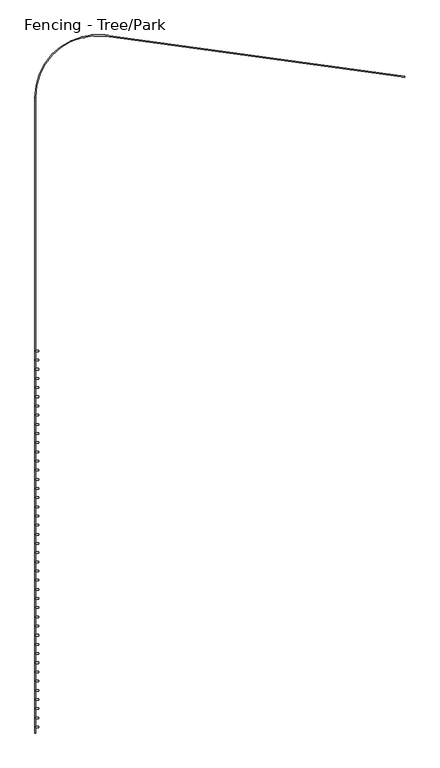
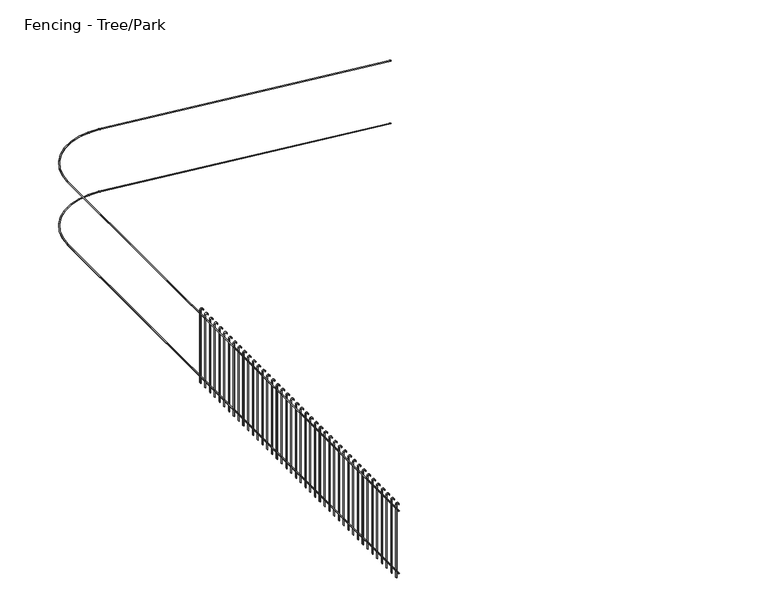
"""IFC4 building model written with IfcOpenShell, lengths in millimetres: railing geometry, Fencing - Tree/Park."""

from ifc_helpers import new_model, si_unit, point, frame, frame_2d, origin, place, context, project, spatial, polyline, circle_curve, ellipse_curve, trimmed, segment, composite_curve, outline, extrude, source, transform, mapped, element, save
from ifc_brep_helpers import plane_surface, cylinder_surface, revolved_surface, advanced_brep


def fencing_tree_park_5cc4b941(model_context):
    return source(origin(), model_context, "Body", "SolidModel", [
        advanced_brep(
        [(-6852.969669, 11627.7450858, 4192.5), (-6850.9463985, 11642.6080053, 4192.5), (-11753.9899093, 12310.0531351, 4192.5), (-11756.0131798, 12295.1902156, 4192.5), (-12895.5232368, 11300.2905414, 4192.5), (-12910.5232368, 11300.2905414, 4192.5), (-12895.5232368, 900.2905414, 4192.5), (-12910.5232368, 900.2905414, 4192.5)],
        [
            (0, 1, circle_curve(frame((-6851.9580338, 11635.1765456, 4192.5), z_axis=(0.9908613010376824, -0.13488469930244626, 0.0), x_axis=(0.13488469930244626, 0.9908613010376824, 0.0)), 7.5)),
            (1, 0, circle_curve(frame((-6851.9580338, 11635.1765456, 4192.5), z_axis=(0.9908613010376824, -0.13488469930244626, 0.0), x_axis=(0.13488469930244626, 0.9908613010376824, 0.0)), 7.5)),
            (1, 2),
            (2, 3, circle_curve(frame((-11755.0015446, 12302.6216753, 4192.5), z_axis=(0.9908613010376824, -0.13488469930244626, 0.0), x_axis=(0.13488469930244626, 0.9908613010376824, 0.0)), 7.5)),
            (3, 0),
            (3, 2, circle_curve(frame((-11755.0015446, 12302.6216753, 4192.5), z_axis=(0.9908613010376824, -0.13488469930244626, 0.0), x_axis=(0.13488469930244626, 0.9908613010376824, 0.0)), 7.5)),
            (4, 3, circle_curve(frame((-11891.4476178, 11300.2905414, 4192.5), z_axis=(0.0, 0.0, -1.0), x_axis=(0.1348846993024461, 0.9908613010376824, 0.0)), 1004.075619)),
            (2, 5, circle_curve(frame((-11891.4476178, 11300.2905414, 4192.5), z_axis=(0.0, 0.0, 1.0), x_axis=(0.1348846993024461, 0.9908613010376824, 0.0)), 1019.075619)),
            (5, 4, circle_curve(frame((-12903.0232368, 11300.2905414, 4192.5), z_axis=(0.0, 1.0, 0.0), x_axis=(-1.0, 0.0, 0.0)), 7.5)),
            (4, 5, circle_curve(frame((-12903.0232368, 11300.2905414, 4192.5), z_axis=(0.0, 1.0, 0.0), x_axis=(-1.0, 0.0, 0.0)), 7.5)),
            (6, 7, circle_curve(frame((-12903.0232368, 900.2905414, 4192.5), z_axis=(0.0, -1.0, 0.0), x_axis=(-1.0, 0.0, 0.0)), 7.5)),
            (7, 6, circle_curve(frame((-12903.0232368, 900.2905414, 4192.5), z_axis=(0.0, -1.0, 0.0), x_axis=(-1.0, 0.0, 0.0)), 7.5)),
            (5, 7),
            (6, 4),
        ],
        [
            plane_surface(frame((-6851.9580338, 11635.1765456, 4200.0), z_axis=(0.9908613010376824, -0.13488469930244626, 0.0), x_axis=(0.13488469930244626, 0.9908613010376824, 0.0))),
            cylinder_surface(frame((-6851.9580338, 11635.1765456, 4192.5), z_axis=(0.9908613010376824, -0.13488469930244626, 0.0), x_axis=(0.13488469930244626, 0.9908613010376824, 0.0)), 7.5),
            revolved_surface(trimmed(ellipse_curve(frame((-11755.0015446, 12302.6216753, 4192.5), z_axis=(0.9908613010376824, -0.1348846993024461, 0.0), x_axis=(0.1348846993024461, 0.9908613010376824, 0.0)), 7.5, 7.5), [point((-11753.9899093, 12310.0531351, 4192.5))], [point((-11756.0131798, 12295.1902156, 4192.5))], True, "CARTESIAN"), (-11891.4476178, 11300.2905414, 4200.0), (0.0, 0.0, 1.0)),
            revolved_surface(trimmed(ellipse_curve(frame((-11755.0015446, 12302.6216753, 4192.5), z_axis=(0.9908613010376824, -0.1348846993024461, 0.0), x_axis=(0.1348846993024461, 0.9908613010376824, 0.0)), 7.5, 7.5), [point((-11756.0131798, 12295.1902156, 4192.5))], [point((-11753.9899093, 12310.0531351, 4192.5))], True, "CARTESIAN"), (-11891.4476178, 11300.2905414, 4200.0), (0.0, 0.0, 1.0)),
            plane_surface(frame((-12903.0232368, 900.2905414, 4200.0), z_axis=(0.0, -1.0, 0.0), x_axis=(0.0, 0.0, -1.0))),
            cylinder_surface(frame((-12903.0232368, 11300.2905414, 4192.5), z_axis=(0.0, 1.0, 0.0), x_axis=(-1.0, 0.0, 0.0)), 7.5),
        ],
        [
            (0, [[1, 2]]),
            (1, [[-2, 3, 4, 5]]),
            (1, [[-1, -5, 6, -3]]),
            (2, [[7, -4, 8, 9]]),
            (3, [[-8, -6, -7, 10]]),
            (4, [[11, 12]]),
            (5, [[-9, 13, -11, 14]]),
            (5, [[-10, -14, -12, -13]]),
        ],
    ),
        advanced_brep(
        [(-6852.969669, 11627.7450858, 2992.5), (-6850.9463985, 11642.6080053, 2992.5), (-11756.0131798, 12295.1902156, 2992.5), (-11753.9899093, 12310.0531351, 2992.5), (-12910.5232368, 11300.2905414, 2992.5), (-12895.5232368, 11300.2905414, 2992.5), (-12895.5232368, 900.2905414, 2992.5), (-12910.5232368, 900.2905414, 2992.5)],
        [
            (0, 1, circle_curve(frame((-6851.9580338, 11635.1765456, 2992.5), z_axis=(0.9908613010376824, -0.13488469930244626, 0.0), x_axis=(0.13488469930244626, 0.9908613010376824, 0.0)), 7.5)),
            (1, 0, circle_curve(frame((-6851.9580338, 11635.1765456, 2992.5), z_axis=(0.9908613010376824, -0.13488469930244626, 0.0), x_axis=(0.13488469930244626, 0.9908613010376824, 0.0)), 7.5)),
            (0, 2),
            (2, 3, circle_curve(frame((-11755.0015446, 12302.6216753, 2992.5), z_axis=(0.9908613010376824, -0.13488469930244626, 0.0), x_axis=(0.13488469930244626, 0.9908613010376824, 0.0)), 7.5)),
            (3, 1),
            (3, 2, circle_curve(frame((-11755.0015446, 12302.6216753, 2992.5), z_axis=(0.9908613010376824, -0.13488469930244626, 0.0), x_axis=(0.13488469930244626, 0.9908613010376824, 0.0)), 7.5)),
            (4, 3, circle_curve(frame((-11891.4476178, 11300.2905414, 2992.5), z_axis=(0.0, 0.0, -1.0), x_axis=(0.1348846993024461, 0.9908613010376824, 0.0)), 1019.075619)),
            (2, 5, circle_curve(frame((-11891.4476178, 11300.2905414, 2992.5), z_axis=(0.0, 0.0, 1.0), x_axis=(0.1348846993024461, 0.9908613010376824, 0.0)), 1004.075619)),
            (5, 4, circle_curve(frame((-12903.0232368, 11300.2905414, 2992.5), z_axis=(0.0, 1.0, 0.0), x_axis=(-1.0, 0.0, 0.0)), 7.5)),
            (4, 5, circle_curve(frame((-12903.0232368, 11300.2905414, 2992.5), z_axis=(0.0, 1.0, 0.0), x_axis=(-1.0, 0.0, 0.0)), 7.5)),
            (6, 7, circle_curve(frame((-12903.0232368, 900.2905414, 2992.5), z_axis=(0.0, -1.0, 0.0), x_axis=(-1.0, 0.0, 0.0)), 7.5)),
            (7, 6, circle_curve(frame((-12903.0232368, 900.2905414, 2992.5), z_axis=(0.0, -1.0, 0.0), x_axis=(-1.0, 0.0, 0.0)), 7.5)),
            (5, 6),
            (7, 4),
        ],
        [
            plane_surface(frame((-6851.9580338, 11635.1765456, 3000.0), z_axis=(0.9908613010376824, -0.13488469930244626, 0.0), x_axis=(0.13488469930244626, 0.9908613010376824, 0.0))),
            cylinder_surface(frame((-6851.9580338, 11635.1765456, 2992.5), z_axis=(0.9908613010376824, -0.13488469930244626, 0.0), x_axis=(0.13488469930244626, 0.9908613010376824, 0.0)), 7.5),
            revolved_surface(trimmed(ellipse_curve(frame((-11755.0015446, 12302.6216753, 2992.5), z_axis=(0.9908613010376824, -0.1348846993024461, 0.0), x_axis=(0.1348846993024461, 0.9908613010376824, 0.0)), 7.5, 7.5), [point((-11756.0131798, 12295.1902156, 2992.5))], [point((-11753.9899093, 12310.0531351, 2992.5))], True, "CARTESIAN"), (-11891.4476178, 11300.2905414, 3000.0), (0.0, 0.0, 1.0)),
            revolved_surface(trimmed(ellipse_curve(frame((-11755.0015446, 12302.6216753, 2992.5), z_axis=(0.9908613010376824, -0.1348846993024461, 0.0), x_axis=(0.1348846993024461, 0.9908613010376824, 0.0)), 7.5, 7.5), [point((-11753.9899093, 12310.0531351, 2992.5))], [point((-11756.0131798, 12295.1902156, 2992.5))], True, "CARTESIAN"), (-11891.4476178, 11300.2905414, 3000.0), (0.0, 0.0, 1.0)),
            plane_surface(frame((-12903.0232368, 900.2905414, 3000.0), z_axis=(0.0, -1.0, 0.0), x_axis=(0.0, 0.0, -1.0))),
            cylinder_surface(frame((-12903.0232368, 11300.2905414, 2992.5), z_axis=(0.0, 1.0, 0.0), x_axis=(-1.0, 0.0, 0.0)), 7.5),
        ],
        [
            (0, [[1, 2]]),
            (1, [[-1, 3, 4, 5]]),
            (1, [[-2, -5, 6, -3]]),
            (2, [[7, -4, 8, 9]]),
            (3, [[-8, -6, -7, 10]]),
            (4, [[11, 12]]),
            (5, [[-9, 13, -12, 14]]),
            (5, [[-10, -14, -11, -13]]),
        ],
    ),
        extrude(outline(composite_curve([segment(polyline([(4250.0, -12895.5232368), (2850.0, -12895.5232368), (2850.0, -12890.5232368), (4250.0, -12890.5232368)]), True, "CONTINUOUS"), segment(trimmed(circle_curve(frame_2d((4250.0, -12870.5232368)), 20.0), [point((4250.0, -12890.5232368))], [point((4250.0, -12850.5232368))], True, "CARTESIAN"), True, "CONTINUOUS"), segment(polyline([(4250.0, -12850.5232368), (4240.0, -12850.5232368), (4240.0, -12845.5232368), (4250.0, -12845.5232368)]), True, "CONTINUOUS"), segment(trimmed(circle_curve(frame_2d((4250.0, -12870.5232368)), 25.0), [point((4250.0, -12845.5232368))], [point((4250.0, -12895.5232368))], False, "CARTESIAN"), True, "CONTINUOUS")], self_intersect=False)), frame((0.0, 987.7905414, 0.0), z_axis=(0.0, 1.0, 0.0), x_axis=(0.0, 0.0, 1.0)), (0.0, 0.0, 1.0), 25.0),
        extrude(outline(composite_curve([segment(polyline([(4250.0, -12895.5232368), (2850.0, -12895.5232368), (2850.0, -12890.5232368), (4250.0, -12890.5232368)]), True, "CONTINUOUS"), segment(trimmed(circle_curve(frame_2d((4250.0, -12870.5232368)), 20.0), [point((4250.0, -12890.5232368))], [point((4250.0, -12850.5232368))], True, "CARTESIAN"), True, "CONTINUOUS"), segment(polyline([(4250.0, -12850.5232368), (4240.0, -12850.5232368), (4240.0, -12845.5232368), (4250.0, -12845.5232368)]), True, "CONTINUOUS"), segment(trimmed(circle_curve(frame_2d((4250.0, -12870.5232368)), 25.0), [point((4250.0, -12845.5232368))], [point((4250.0, -12895.5232368))], False, "CARTESIAN"), True, "CONTINUOUS")], self_intersect=False)), frame((0.0, 1137.7905414, 0.0), z_axis=(0.0, 1.0, 0.0), x_axis=(0.0, 0.0, 1.0)), (0.0, 0.0, 1.0), 25.0),
        extrude(outline(composite_curve([segment(polyline([(4250.0, -12895.5232368), (2850.0, -12895.5232368), (2850.0, -12890.5232368), (4250.0, -12890.5232368)]), True, "CONTINUOUS"), segment(trimmed(circle_curve(frame_2d((4250.0, -12870.5232368)), 20.0), [point((4250.0, -12890.5232368))], [point((4250.0, -12850.5232368))], True, "CARTESIAN"), True, "CONTINUOUS"), segment(polyline([(4250.0, -12850.5232368), (4240.0, -12850.5232368), (4240.0, -12845.5232368), (4250.0, -12845.5232368)]), True, "CONTINUOUS"), segment(trimmed(circle_curve(frame_2d((4250.0, -12870.5232368)), 25.0), [point((4250.0, -12845.5232368))], [point((4250.0, -12895.5232368))], False, "CARTESIAN"), True, "CONTINUOUS")], self_intersect=False)), frame((0.0, 1287.7905414, 0.0), z_axis=(0.0, 1.0, 0.0), x_axis=(0.0, 0.0, 1.0)), (0.0, 0.0, 1.0), 25.0),
        extrude(outline(composite_curve([segment(polyline([(4250.0, -12895.5232368), (2850.0, -12895.5232368), (2850.0, -12890.5232368), (4250.0, -12890.5232368)]), True, "CONTINUOUS"), segment(trimmed(circle_curve(frame_2d((4250.0, -12870.5232368)), 20.0), [point((4250.0, -12890.5232368))], [point((4250.0, -12850.5232368))], True, "CARTESIAN"), True, "CONTINUOUS"), segment(polyline([(4250.0, -12850.5232368), (4240.0, -12850.5232368), (4240.0, -12845.5232368), (4250.0, -12845.5232368)]), True, "CONTINUOUS"), segment(trimmed(circle_curve(frame_2d((4250.0, -12870.5232368)), 25.0), [point((4250.0, -12845.5232368))], [point((4250.0, -12895.5232368))], False, "CARTESIAN"), True, "CONTINUOUS")], self_intersect=False)), frame((0.0, 1437.7905414, 0.0), z_axis=(0.0, 1.0, 0.0), x_axis=(0.0, 0.0, 1.0)), (0.0, 0.0, 1.0), 25.0),
        extrude(outline(composite_curve([segment(polyline([(4250.0, -12895.5232368), (2850.0, -12895.5232368), (2850.0, -12890.5232368), (4250.0, -12890.5232368)]), True, "CONTINUOUS"), segment(trimmed(circle_curve(frame_2d((4250.0, -12870.5232368)), 20.0), [point((4250.0, -12890.5232368))], [point((4250.0, -12850.5232368))], True, "CARTESIAN"), True, "CONTINUOUS"), segment(polyline([(4250.0, -12850.5232368), (4240.0, -12850.5232368), (4240.0, -12845.5232368), (4250.0, -12845.5232368)]), True, "CONTINUOUS"), segment(trimmed(circle_curve(frame_2d((4250.0, -12870.5232368)), 25.0), [point((4250.0, -12845.5232368))], [point((4250.0, -12895.5232368))], False, "CARTESIAN"), True, "CONTINUOUS")], self_intersect=False)), frame((0.0, 1587.7905414, 0.0), z_axis=(0.0, 1.0, 0.0), x_axis=(0.0, 0.0, 1.0)), (0.0, 0.0, 1.0), 25.0),
        extrude(outline(composite_curve([segment(polyline([(4250.0, -12895.5232368), (2850.0, -12895.5232368), (2850.0, -12890.5232368), (4250.0, -12890.5232368)]), True, "CONTINUOUS"), segment(trimmed(circle_curve(frame_2d((4250.0, -12870.5232368)), 20.0), [point((4250.0, -12890.5232368))], [point((4250.0, -12850.5232368))], True, "CARTESIAN"), True, "CONTINUOUS"), segment(polyline([(4250.0, -12850.5232368), (4240.0, -12850.5232368), (4240.0, -12845.5232368), (4250.0, -12845.5232368)]), True, "CONTINUOUS"), segment(trimmed(circle_curve(frame_2d((4250.0, -12870.5232368)), 25.0), [point((4250.0, -12845.5232368))], [point((4250.0, -12895.5232368))], False, "CARTESIAN"), True, "CONTINUOUS")], self_intersect=False)), frame((0.0, 1737.7905414, 0.0), z_axis=(0.0, 1.0, 0.0), x_axis=(0.0, 0.0, 1.0)), (0.0, 0.0, 1.0), 25.0),
        extrude(outline(composite_curve([segment(polyline([(4250.0, -12895.5232368), (2850.0, -12895.5232368), (2850.0, -12890.5232368), (4250.0, -12890.5232368)]), True, "CONTINUOUS"), segment(trimmed(circle_curve(frame_2d((4250.0, -12870.5232368)), 20.0), [point((4250.0, -12890.5232368))], [point((4250.0, -12850.5232368))], True, "CARTESIAN"), True, "CONTINUOUS"), segment(polyline([(4250.0, -12850.5232368), (4240.0, -12850.5232368), (4240.0, -12845.5232368), (4250.0, -12845.5232368)]), True, "CONTINUOUS"), segment(trimmed(circle_curve(frame_2d((4250.0, -12870.5232368)), 25.0), [point((4250.0, -12845.5232368))], [point((4250.0, -12895.5232368))], False, "CARTESIAN"), True, "CONTINUOUS")], self_intersect=False)), frame((0.0, 1887.7905414, 0.0), z_axis=(0.0, 1.0, 0.0), x_axis=(0.0, 0.0, 1.0)), (0.0, 0.0, 1.0), 25.0),
        extrude(outline(composite_curve([segment(polyline([(4250.0, -12895.5232368), (2850.0, -12895.5232368), (2850.0, -12890.5232368), (4250.0, -12890.5232368)]), True, "CONTINUOUS"), segment(trimmed(circle_curve(frame_2d((4250.0, -12870.5232368)), 20.0), [point((4250.0, -12890.5232368))], [point((4250.0, -12850.5232368))], True, "CARTESIAN"), True, "CONTINUOUS"), segment(polyline([(4250.0, -12850.5232368), (4240.0, -12850.5232368), (4240.0, -12845.5232368), (4250.0, -12845.5232368)]), True, "CONTINUOUS"), segment(trimmed(circle_curve(frame_2d((4250.0, -12870.5232368)), 25.0), [point((4250.0, -12845.5232368))], [point((4250.0, -12895.5232368))], False, "CARTESIAN"), True, "CONTINUOUS")], self_intersect=False)), frame((0.0, 2037.7905414, 0.0), z_axis=(0.0, 1.0, 0.0), x_axis=(0.0, 0.0, 1.0)), (0.0, 0.0, 1.0), 25.0),
        extrude(outline(composite_curve([segment(polyline([(4250.0, -12895.5232368), (2850.0, -12895.5232368), (2850.0, -12890.5232368), (4250.0, -12890.5232368)]), True, "CONTINUOUS"), segment(trimmed(circle_curve(frame_2d((4250.0, -12870.5232368)), 20.0), [point((4250.0, -12890.5232368))], [point((4250.0, -12850.5232368))], True, "CARTESIAN"), True, "CONTINUOUS"), segment(polyline([(4250.0, -12850.5232368), (4240.0, -12850.5232368), (4240.0, -12845.5232368), (4250.0, -12845.5232368)]), True, "CONTINUOUS"), segment(trimmed(circle_curve(frame_2d((4250.0, -12870.5232368)), 25.0), [point((4250.0, -12845.5232368))], [point((4250.0, -12895.5232368))], False, "CARTESIAN"), True, "CONTINUOUS")], self_intersect=False)), frame((0.0, 2187.7905414, 0.0), z_axis=(0.0, 1.0, 0.0), x_axis=(0.0, 0.0, 1.0)), (0.0, 0.0, 1.0), 25.0),
        extrude(outline(composite_curve([segment(polyline([(4250.0, -12895.5232368), (2850.0, -12895.5232368), (2850.0, -12890.5232368), (4250.0, -12890.5232368)]), True, "CONTINUOUS"), segment(trimmed(circle_curve(frame_2d((4250.0, -12870.5232368)), 20.0), [point((4250.0, -12890.5232368))], [point((4250.0, -12850.5232368))], True, "CARTESIAN"), True, "CONTINUOUS"), segment(polyline([(4250.0, -12850.5232368), (4240.0, -12850.5232368), (4240.0, -12845.5232368), (4250.0, -12845.5232368)]), True, "CONTINUOUS"), segment(trimmed(circle_curve(frame_2d((4250.0, -12870.5232368)), 25.0), [point((4250.0, -12845.5232368))], [point((4250.0, -12895.5232368))], False, "CARTESIAN"), True, "CONTINUOUS")], self_intersect=False)), frame((0.0, 2337.7905414, 0.0), z_axis=(0.0, 1.0, 0.0), x_axis=(0.0, 0.0, 1.0)), (0.0, 0.0, 1.0), 25.0),
        extrude(outline(composite_curve([segment(polyline([(4250.0, -12895.5232368), (2850.0, -12895.5232368), (2850.0, -12890.5232368), (4250.0, -12890.5232368)]), True, "CONTINUOUS"), segment(trimmed(circle_curve(frame_2d((4250.0, -12870.5232368)), 20.0), [point((4250.0, -12890.5232368))], [point((4250.0, -12850.5232368))], True, "CARTESIAN"), True, "CONTINUOUS"), segment(polyline([(4250.0, -12850.5232368), (4240.0, -12850.5232368), (4240.0, -12845.5232368), (4250.0, -12845.5232368)]), True, "CONTINUOUS"), segment(trimmed(circle_curve(frame_2d((4250.0, -12870.5232368)), 25.0), [point((4250.0, -12845.5232368))], [point((4250.0, -12895.5232368))], False, "CARTESIAN"), True, "CONTINUOUS")], self_intersect=False)), frame((0.0, 2487.7905414, 0.0), z_axis=(0.0, 1.0, 0.0), x_axis=(0.0, 0.0, 1.0)), (0.0, 0.0, 1.0), 25.0),
        extrude(outline(composite_curve([segment(polyline([(4250.0, -12895.5232368), (2850.0, -12895.5232368), (2850.0, -12890.5232368), (4250.0, -12890.5232368)]), True, "CONTINUOUS"), segment(trimmed(circle_curve(frame_2d((4250.0, -12870.5232368)), 20.0), [point((4250.0, -12890.5232368))], [point((4250.0, -12850.5232368))], True, "CARTESIAN"), True, "CONTINUOUS"), segment(polyline([(4250.0, -12850.5232368), (4240.0, -12850.5232368), (4240.0, -12845.5232368), (4250.0, -12845.5232368)]), True, "CONTINUOUS"), segment(trimmed(circle_curve(frame_2d((4250.0, -12870.5232368)), 25.0), [point((4250.0, -12845.5232368))], [point((4250.0, -12895.5232368))], False, "CARTESIAN"), True, "CONTINUOUS")], self_intersect=False)), frame((0.0, 2637.7905414, 0.0), z_axis=(0.0, 1.0, 0.0), x_axis=(0.0, 0.0, 1.0)), (0.0, 0.0, 1.0), 25.0),
        extrude(outline(composite_curve([segment(polyline([(4250.0, -12895.5232368), (2850.0, -12895.5232368), (2850.0, -12890.5232368), (4250.0, -12890.5232368)]), True, "CONTINUOUS"), segment(trimmed(circle_curve(frame_2d((4250.0, -12870.5232368)), 20.0), [point((4250.0, -12890.5232368))], [point((4250.0, -12850.5232368))], True, "CARTESIAN"), True, "CONTINUOUS"), segment(polyline([(4250.0, -12850.5232368), (4240.0, -12850.5232368), (4240.0, -12845.5232368), (4250.0, -12845.5232368)]), True, "CONTINUOUS"), segment(trimmed(circle_curve(frame_2d((4250.0, -12870.5232368)), 25.0), [point((4250.0, -12845.5232368))], [point((4250.0, -12895.5232368))], False, "CARTESIAN"), True, "CONTINUOUS")], self_intersect=False)), frame((0.0, 2787.7905414, 0.0), z_axis=(0.0, 1.0, 0.0), x_axis=(0.0, 0.0, 1.0)), (0.0, 0.0, 1.0), 25.0),
        extrude(outline(composite_curve([segment(polyline([(4250.0, -12895.5232368), (2850.0, -12895.5232368), (2850.0, -12890.5232368), (4250.0, -12890.5232368)]), True, "CONTINUOUS"), segment(trimmed(circle_curve(frame_2d((4250.0, -12870.5232368)), 20.0), [point((4250.0, -12890.5232368))], [point((4250.0, -12850.5232368))], True, "CARTESIAN"), True, "CONTINUOUS"), segment(polyline([(4250.0, -12850.5232368), (4240.0, -12850.5232368), (4240.0, -12845.5232368), (4250.0, -12845.5232368)]), True, "CONTINUOUS"), segment(trimmed(circle_curve(frame_2d((4250.0, -12870.5232368)), 25.0), [point((4250.0, -12845.5232368))], [point((4250.0, -12895.5232368))], False, "CARTESIAN"), True, "CONTINUOUS")], self_intersect=False)), frame((0.0, 2937.7905414, 0.0), z_axis=(0.0, 1.0, 0.0), x_axis=(0.0, 0.0, 1.0)), (0.0, 0.0, 1.0), 25.0),
        extrude(outline(composite_curve([segment(polyline([(4250.0, -12895.5232368), (2850.0, -12895.5232368), (2850.0, -12890.5232368), (4250.0, -12890.5232368)]), True, "CONTINUOUS"), segment(trimmed(circle_curve(frame_2d((4250.0, -12870.5232368)), 20.0), [point((4250.0, -12890.5232368))], [point((4250.0, -12850.5232368))], True, "CARTESIAN"), True, "CONTINUOUS"), segment(polyline([(4250.0, -12850.5232368), (4240.0, -12850.5232368), (4240.0, -12845.5232368), (4250.0, -12845.5232368)]), True, "CONTINUOUS"), segment(trimmed(circle_curve(frame_2d((4250.0, -12870.5232368)), 25.0), [point((4250.0, -12845.5232368))], [point((4250.0, -12895.5232368))], False, "CARTESIAN"), True, "CONTINUOUS")], self_intersect=False)), frame((0.0, 3087.7905414, 0.0), z_axis=(0.0, 1.0, 0.0), x_axis=(0.0, 0.0, 1.0)), (0.0, 0.0, 1.0), 25.0),
        extrude(outline(composite_curve([segment(polyline([(4250.0, -12895.5232368), (2850.0, -12895.5232368), (2850.0, -12890.5232368), (4250.0, -12890.5232368)]), True, "CONTINUOUS"), segment(trimmed(circle_curve(frame_2d((4250.0, -12870.5232368)), 20.0), [point((4250.0, -12890.5232368))], [point((4250.0, -12850.5232368))], True, "CARTESIAN"), True, "CONTINUOUS"), segment(polyline([(4250.0, -12850.5232368), (4240.0, -12850.5232368), (4240.0, -12845.5232368), (4250.0, -12845.5232368)]), True, "CONTINUOUS"), segment(trimmed(circle_curve(frame_2d((4250.0, -12870.5232368)), 25.0), [point((4250.0, -12845.5232368))], [point((4250.0, -12895.5232368))], False, "CARTESIAN"), True, "CONTINUOUS")], self_intersect=False)), frame((0.0, 3237.7905414, 0.0), z_axis=(0.0, 1.0, 0.0), x_axis=(0.0, 0.0, 1.0)), (0.0, 0.0, 1.0), 25.0),
        extrude(outline(composite_curve([segment(polyline([(4250.0, -12895.5232368), (2850.0, -12895.5232368), (2850.0, -12890.5232368), (4250.0, -12890.5232368)]), True, "CONTINUOUS"), segment(trimmed(circle_curve(frame_2d((4250.0, -12870.5232368)), 20.0), [point((4250.0, -12890.5232368))], [point((4250.0, -12850.5232368))], True, "CARTESIAN"), True, "CONTINUOUS"), segment(polyline([(4250.0, -12850.5232368), (4240.0, -12850.5232368), (4240.0, -12845.5232368), (4250.0, -12845.5232368)]), True, "CONTINUOUS"), segment(trimmed(circle_curve(frame_2d((4250.0, -12870.5232368)), 25.0), [point((4250.0, -12845.5232368))], [point((4250.0, -12895.5232368))], False, "CARTESIAN"), True, "CONTINUOUS")], self_intersect=False)), frame((0.0, 3387.7905414, 0.0), z_axis=(0.0, 1.0, 0.0), x_axis=(0.0, 0.0, 1.0)), (0.0, 0.0, 1.0), 25.0),
        extrude(outline(composite_curve([segment(polyline([(4250.0, -12895.5232368), (2850.0, -12895.5232368), (2850.0, -12890.5232368), (4250.0, -12890.5232368)]), True, "CONTINUOUS"), segment(trimmed(circle_curve(frame_2d((4250.0, -12870.5232368)), 20.0), [point((4250.0, -12890.5232368))], [point((4250.0, -12850.5232368))], True, "CARTESIAN"), True, "CONTINUOUS"), segment(polyline([(4250.0, -12850.5232368), (4240.0, -12850.5232368), (4240.0, -12845.5232368), (4250.0, -12845.5232368)]), True, "CONTINUOUS"), segment(trimmed(circle_curve(frame_2d((4250.0, -12870.5232368)), 25.0), [point((4250.0, -12845.5232368))], [point((4250.0, -12895.5232368))], False, "CARTESIAN"), True, "CONTINUOUS")], self_intersect=False)), frame((0.0, 3537.7905414, 0.0), z_axis=(0.0, 1.0, 0.0), x_axis=(0.0, 0.0, 1.0)), (0.0, 0.0, 1.0), 25.0),
        extrude(outline(composite_curve([segment(polyline([(4250.0, -12895.5232368), (2850.0, -12895.5232368), (2850.0, -12890.5232368), (4250.0, -12890.5232368)]), True, "CONTINUOUS"), segment(trimmed(circle_curve(frame_2d((4250.0, -12870.5232368)), 20.0), [point((4250.0, -12890.5232368))], [point((4250.0, -12850.5232368))], True, "CARTESIAN"), True, "CONTINUOUS"), segment(polyline([(4250.0, -12850.5232368), (4240.0, -12850.5232368), (4240.0, -12845.5232368), (4250.0, -12845.5232368)]), True, "CONTINUOUS"), segment(trimmed(circle_curve(frame_2d((4250.0, -12870.5232368)), 25.0), [point((4250.0, -12845.5232368))], [point((4250.0, -12895.5232368))], False, "CARTESIAN"), True, "CONTINUOUS")], self_intersect=False)), frame((0.0, 3687.7905414, 0.0), z_axis=(0.0, 1.0, 0.0), x_axis=(0.0, 0.0, 1.0)), (0.0, 0.0, 1.0), 25.0),
        extrude(outline(composite_curve([segment(polyline([(4250.0, -12895.5232368), (2850.0, -12895.5232368), (2850.0, -12890.5232368), (4250.0, -12890.5232368)]), True, "CONTINUOUS"), segment(trimmed(circle_curve(frame_2d((4250.0, -12870.5232368)), 20.0), [point((4250.0, -12890.5232368))], [point((4250.0, -12850.5232368))], True, "CARTESIAN"), True, "CONTINUOUS"), segment(polyline([(4250.0, -12850.5232368), (4240.0, -12850.5232368), (4240.0, -12845.5232368), (4250.0, -12845.5232368)]), True, "CONTINUOUS"), segment(trimmed(circle_curve(frame_2d((4250.0, -12870.5232368)), 25.0), [point((4250.0, -12845.5232368))], [point((4250.0, -12895.5232368))], False, "CARTESIAN"), True, "CONTINUOUS")], self_intersect=False)), frame((0.0, 3837.7905414, 0.0), z_axis=(0.0, 1.0, 0.0), x_axis=(0.0, 0.0, 1.0)), (0.0, 0.0, 1.0), 25.0),
        extrude(outline(composite_curve([segment(polyline([(4250.0, -12895.5232368), (2850.0, -12895.5232368), (2850.0, -12890.5232368), (4250.0, -12890.5232368)]), True, "CONTINUOUS"), segment(trimmed(circle_curve(frame_2d((4250.0, -12870.5232368)), 20.0), [point((4250.0, -12890.5232368))], [point((4250.0, -12850.5232368))], True, "CARTESIAN"), True, "CONTINUOUS"), segment(polyline([(4250.0, -12850.5232368), (4240.0, -12850.5232368), (4240.0, -12845.5232368), (4250.0, -12845.5232368)]), True, "CONTINUOUS"), segment(trimmed(circle_curve(frame_2d((4250.0, -12870.5232368)), 25.0), [point((4250.0, -12845.5232368))], [point((4250.0, -12895.5232368))], False, "CARTESIAN"), True, "CONTINUOUS")], self_intersect=False)), frame((0.0, 3987.7905414, 0.0), z_axis=(0.0, 1.0, 0.0), x_axis=(0.0, 0.0, 1.0)), (0.0, 0.0, 1.0), 25.0),
        extrude(outline(composite_curve([segment(polyline([(4250.0, -12895.5232368), (2850.0, -12895.5232368), (2850.0, -12890.5232368), (4250.0, -12890.5232368)]), True, "CONTINUOUS"), segment(trimmed(circle_curve(frame_2d((4250.0, -12870.5232368)), 20.0), [point((4250.0, -12890.5232368))], [point((4250.0, -12850.5232368))], True, "CARTESIAN"), True, "CONTINUOUS"), segment(polyline([(4250.0, -12850.5232368), (4240.0, -12850.5232368), (4240.0, -12845.5232368), (4250.0, -12845.5232368)]), True, "CONTINUOUS"), segment(trimmed(circle_curve(frame_2d((4250.0, -12870.5232368)), 25.0), [point((4250.0, -12845.5232368))], [point((4250.0, -12895.5232368))], False, "CARTESIAN"), True, "CONTINUOUS")], self_intersect=False)), frame((0.0, 4137.7905414, 0.0), z_axis=(0.0, 1.0, 0.0), x_axis=(0.0, 0.0, 1.0)), (0.0, 0.0, 1.0), 25.0),
        extrude(outline(composite_curve([segment(polyline([(4250.0, -12895.5232368), (2850.0, -12895.5232368), (2850.0, -12890.5232368), (4250.0, -12890.5232368)]), True, "CONTINUOUS"), segment(trimmed(circle_curve(frame_2d((4250.0, -12870.5232368)), 20.0), [point((4250.0, -12890.5232368))], [point((4250.0, -12850.5232368))], True, "CARTESIAN"), True, "CONTINUOUS"), segment(polyline([(4250.0, -12850.5232368), (4240.0, -12850.5232368), (4240.0, -12845.5232368), (4250.0, -12845.5232368)]), True, "CONTINUOUS"), segment(trimmed(circle_curve(frame_2d((4250.0, -12870.5232368)), 25.0), [point((4250.0, -12845.5232368))], [point((4250.0, -12895.5232368))], False, "CARTESIAN"), True, "CONTINUOUS")], self_intersect=False)), frame((0.0, 4287.7905414, 0.0), z_axis=(0.0, 1.0, 0.0), x_axis=(0.0, 0.0, 1.0)), (0.0, 0.0, 1.0), 25.0),
        extrude(outline(composite_curve([segment(polyline([(4250.0, -12895.5232368), (2850.0, -12895.5232368), (2850.0, -12890.5232368), (4250.0, -12890.5232368)]), True, "CONTINUOUS"), segment(trimmed(circle_curve(frame_2d((4250.0, -12870.5232368)), 20.0), [point((4250.0, -12890.5232368))], [point((4250.0, -12850.5232368))], True, "CARTESIAN"), True, "CONTINUOUS"), segment(polyline([(4250.0, -12850.5232368), (4240.0, -12850.5232368), (4240.0, -12845.5232368), (4250.0, -12845.5232368)]), True, "CONTINUOUS"), segment(trimmed(circle_curve(frame_2d((4250.0, -12870.5232368)), 25.0), [point((4250.0, -12845.5232368))], [point((4250.0, -12895.5232368))], False, "CARTESIAN"), True, "CONTINUOUS")], self_intersect=False)), frame((0.0, 4437.7905414, 0.0), z_axis=(0.0, 1.0, 0.0), x_axis=(0.0, 0.0, 1.0)), (0.0, 0.0, 1.0), 25.0),
        extrude(outline(composite_curve([segment(polyline([(4250.0, -12895.5232368), (2850.0, -12895.5232368), (2850.0, -12890.5232368), (4250.0, -12890.5232368)]), True, "CONTINUOUS"), segment(trimmed(circle_curve(frame_2d((4250.0, -12870.5232368)), 20.0), [point((4250.0, -12890.5232368))], [point((4250.0, -12850.5232368))], True, "CARTESIAN"), True, "CONTINUOUS"), segment(polyline([(4250.0, -12850.5232368), (4240.0, -12850.5232368), (4240.0, -12845.5232368), (4250.0, -12845.5232368)]), True, "CONTINUOUS"), segment(trimmed(circle_curve(frame_2d((4250.0, -12870.5232368)), 25.0), [point((4250.0, -12845.5232368))], [point((4250.0, -12895.5232368))], False, "CARTESIAN"), True, "CONTINUOUS")], self_intersect=False)), frame((0.0, 4587.7905414, 0.0), z_axis=(0.0, 1.0, 0.0), x_axis=(0.0, 0.0, 1.0)), (0.0, 0.0, 1.0), 25.0),
        extrude(outline(composite_curve([segment(polyline([(4250.0, -12895.5232368), (2850.0, -12895.5232368), (2850.0, -12890.5232368), (4250.0, -12890.5232368)]), True, "CONTINUOUS"), segment(trimmed(circle_curve(frame_2d((4250.0, -12870.5232368)), 20.0), [point((4250.0, -12890.5232368))], [point((4250.0, -12850.5232368))], True, "CARTESIAN"), True, "CONTINUOUS"), segment(polyline([(4250.0, -12850.5232368), (4240.0, -12850.5232368), (4240.0, -12845.5232368), (4250.0, -12845.5232368)]), True, "CONTINUOUS"), segment(trimmed(circle_curve(frame_2d((4250.0, -12870.5232368)), 25.0), [point((4250.0, -12845.5232368))], [point((4250.0, -12895.5232368))], False, "CARTESIAN"), True, "CONTINUOUS")], self_intersect=False)), frame((0.0, 4737.7905414, 0.0), z_axis=(0.0, 1.0, 0.0), x_axis=(0.0, 0.0, 1.0)), (0.0, 0.0, 1.0), 25.0),
        extrude(outline(composite_curve([segment(polyline([(4250.0, -12895.5232368), (2850.0, -12895.5232368), (2850.0, -12890.5232368), (4250.0, -12890.5232368)]), True, "CONTINUOUS"), segment(trimmed(circle_curve(frame_2d((4250.0, -12870.5232368)), 20.0), [point((4250.0, -12890.5232368))], [point((4250.0, -12850.5232368))], True, "CARTESIAN"), True, "CONTINUOUS"), segment(polyline([(4250.0, -12850.5232368), (4240.0, -12850.5232368), (4240.0, -12845.5232368), (4250.0, -12845.5232368)]), True, "CONTINUOUS"), segment(trimmed(circle_curve(frame_2d((4250.0, -12870.5232368)), 25.0), [point((4250.0, -12845.5232368))], [point((4250.0, -12895.5232368))], False, "CARTESIAN"), True, "CONTINUOUS")], self_intersect=False)), frame((0.0, 4887.7905414, 0.0), z_axis=(0.0, 1.0, 0.0), x_axis=(0.0, 0.0, 1.0)), (0.0, 0.0, 1.0), 25.0),
        extrude(outline(composite_curve([segment(polyline([(4250.0, -12895.5232368), (2850.0, -12895.5232368), (2850.0, -12890.5232368), (4250.0, -12890.5232368)]), True, "CONTINUOUS"), segment(trimmed(circle_curve(frame_2d((4250.0, -12870.5232368)), 20.0), [point((4250.0, -12890.5232368))], [point((4250.0, -12850.5232368))], True, "CARTESIAN"), True, "CONTINUOUS"), segment(polyline([(4250.0, -12850.5232368), (4240.0, -12850.5232368), (4240.0, -12845.5232368), (4250.0, -12845.5232368)]), True, "CONTINUOUS"), segment(trimmed(circle_curve(frame_2d((4250.0, -12870.5232368)), 25.0), [point((4250.0, -12845.5232368))], [point((4250.0, -12895.5232368))], False, "CARTESIAN"), True, "CONTINUOUS")], self_intersect=False)), frame((0.0, 5037.7905414, 0.0), z_axis=(0.0, 1.0, 0.0), x_axis=(0.0, 0.0, 1.0)), (0.0, 0.0, 1.0), 25.0),
        extrude(outline(composite_curve([segment(polyline([(4250.0, -12895.5232368), (2850.0, -12895.5232368), (2850.0, -12890.5232368), (4250.0, -12890.5232368)]), True, "CONTINUOUS"), segment(trimmed(circle_curve(frame_2d((4250.0, -12870.5232368)), 20.0), [point((4250.0, -12890.5232368))], [point((4250.0, -12850.5232368))], True, "CARTESIAN"), True, "CONTINUOUS"), segment(polyline([(4250.0, -12850.5232368), (4240.0, -12850.5232368), (4240.0, -12845.5232368), (4250.0, -12845.5232368)]), True, "CONTINUOUS"), segment(trimmed(circle_curve(frame_2d((4250.0, -12870.5232368)), 25.0), [point((4250.0, -12845.5232368))], [point((4250.0, -12895.5232368))], False, "CARTESIAN"), True, "CONTINUOUS")], self_intersect=False)), frame((0.0, 5187.7905414, 0.0), z_axis=(0.0, 1.0, 0.0), x_axis=(0.0, 0.0, 1.0)), (0.0, 0.0, 1.0), 25.0),
        extrude(outline(composite_curve([segment(polyline([(4250.0, -12895.5232368), (2850.0, -12895.5232368), (2850.0, -12890.5232368), (4250.0, -12890.5232368)]), True, "CONTINUOUS"), segment(trimmed(circle_curve(frame_2d((4250.0, -12870.5232368)), 20.0), [point((4250.0, -12890.5232368))], [point((4250.0, -12850.5232368))], True, "CARTESIAN"), True, "CONTINUOUS"), segment(polyline([(4250.0, -12850.5232368), (4240.0, -12850.5232368), (4240.0, -12845.5232368), (4250.0, -12845.5232368)]), True, "CONTINUOUS"), segment(trimmed(circle_curve(frame_2d((4250.0, -12870.5232368)), 25.0), [point((4250.0, -12845.5232368))], [point((4250.0, -12895.5232368))], False, "CARTESIAN"), True, "CONTINUOUS")], self_intersect=False)), frame((0.0, 5337.7905414, 0.0), z_axis=(0.0, 1.0, 0.0), x_axis=(0.0, 0.0, 1.0)), (0.0, 0.0, 1.0), 25.0),
        extrude(outline(composite_curve([segment(polyline([(4250.0, -12895.5232368), (2850.0, -12895.5232368), (2850.0, -12890.5232368), (4250.0, -12890.5232368)]), True, "CONTINUOUS"), segment(trimmed(circle_curve(frame_2d((4250.0, -12870.5232368)), 20.0), [point((4250.0, -12890.5232368))], [point((4250.0, -12850.5232368))], True, "CARTESIAN"), True, "CONTINUOUS"), segment(polyline([(4250.0, -12850.5232368), (4240.0, -12850.5232368), (4240.0, -12845.5232368), (4250.0, -12845.5232368)]), True, "CONTINUOUS"), segment(trimmed(circle_curve(frame_2d((4250.0, -12870.5232368)), 25.0), [point((4250.0, -12845.5232368))], [point((4250.0, -12895.5232368))], False, "CARTESIAN"), True, "CONTINUOUS")], self_intersect=False)), frame((0.0, 5487.7905414, 0.0), z_axis=(0.0, 1.0, 0.0), x_axis=(0.0, 0.0, 1.0)), (0.0, 0.0, 1.0), 25.0),
        extrude(outline(composite_curve([segment(polyline([(4250.0, -12895.5232368), (2850.0, -12895.5232368), (2850.0, -12890.5232368), (4250.0, -12890.5232368)]), True, "CONTINUOUS"), segment(trimmed(circle_curve(frame_2d((4250.0, -12870.5232368)), 20.0), [point((4250.0, -12890.5232368))], [point((4250.0, -12850.5232368))], True, "CARTESIAN"), True, "CONTINUOUS"), segment(polyline([(4250.0, -12850.5232368), (4240.0, -12850.5232368), (4240.0, -12845.5232368), (4250.0, -12845.5232368)]), True, "CONTINUOUS"), segment(trimmed(circle_curve(frame_2d((4250.0, -12870.5232368)), 25.0), [point((4250.0, -12845.5232368))], [point((4250.0, -12895.5232368))], False, "CARTESIAN"), True, "CONTINUOUS")], self_intersect=False)), frame((0.0, 5637.7905414, 0.0), z_axis=(0.0, 1.0, 0.0), x_axis=(0.0, 0.0, 1.0)), (0.0, 0.0, 1.0), 25.0),
        extrude(outline(composite_curve([segment(polyline([(4250.0, -12895.5232368), (2850.0, -12895.5232368), (2850.0, -12890.5232368), (4250.0, -12890.5232368)]), True, "CONTINUOUS"), segment(trimmed(circle_curve(frame_2d((4250.0, -12870.5232368)), 20.0), [point((4250.0, -12890.5232368))], [point((4250.0, -12850.5232368))], True, "CARTESIAN"), True, "CONTINUOUS"), segment(polyline([(4250.0, -12850.5232368), (4240.0, -12850.5232368), (4240.0, -12845.5232368), (4250.0, -12845.5232368)]), True, "CONTINUOUS"), segment(trimmed(circle_curve(frame_2d((4250.0, -12870.5232368)), 25.0), [point((4250.0, -12845.5232368))], [point((4250.0, -12895.5232368))], False, "CARTESIAN"), True, "CONTINUOUS")], self_intersect=False)), frame((0.0, 5787.7905414, 0.0), z_axis=(0.0, 1.0, 0.0), x_axis=(0.0, 0.0, 1.0)), (0.0, 0.0, 1.0), 25.0),
        extrude(outline(composite_curve([segment(polyline([(4250.0, -12895.5232368), (2850.0, -12895.5232368), (2850.0, -12890.5232368), (4250.0, -12890.5232368)]), True, "CONTINUOUS"), segment(trimmed(circle_curve(frame_2d((4250.0, -12870.5232368)), 20.0), [point((4250.0, -12890.5232368))], [point((4250.0, -12850.5232368))], True, "CARTESIAN"), True, "CONTINUOUS"), segment(polyline([(4250.0, -12850.5232368), (4240.0, -12850.5232368), (4240.0, -12845.5232368), (4250.0, -12845.5232368)]), True, "CONTINUOUS"), segment(trimmed(circle_curve(frame_2d((4250.0, -12870.5232368)), 25.0), [point((4250.0, -12845.5232368))], [point((4250.0, -12895.5232368))], False, "CARTESIAN"), True, "CONTINUOUS")], self_intersect=False)), frame((0.0, 5937.7905414, 0.0), z_axis=(0.0, 1.0, 0.0), x_axis=(0.0, 0.0, 1.0)), (0.0, 0.0, 1.0), 25.0),
        extrude(outline(composite_curve([segment(polyline([(4250.0, -12895.5232368), (2850.0, -12895.5232368), (2850.0, -12890.5232368), (4250.0, -12890.5232368)]), True, "CONTINUOUS"), segment(trimmed(circle_curve(frame_2d((4250.0, -12870.5232368)), 20.0), [point((4250.0, -12890.5232368))], [point((4250.0, -12850.5232368))], True, "CARTESIAN"), True, "CONTINUOUS"), segment(polyline([(4250.0, -12850.5232368), (4240.0, -12850.5232368), (4240.0, -12845.5232368), (4250.0, -12845.5232368)]), True, "CONTINUOUS"), segment(trimmed(circle_curve(frame_2d((4250.0, -12870.5232368)), 25.0), [point((4250.0, -12845.5232368))], [point((4250.0, -12895.5232368))], False, "CARTESIAN"), True, "CONTINUOUS")], self_intersect=False)), frame((0.0, 6087.7905414, 0.0), z_axis=(0.0, 1.0, 0.0), x_axis=(0.0, 0.0, 1.0)), (0.0, 0.0, 1.0), 25.0),
        extrude(outline(composite_curve([segment(polyline([(4250.0, -12895.5232368), (2850.0, -12895.5232368), (2850.0, -12890.5232368), (4250.0, -12890.5232368)]), True, "CONTINUOUS"), segment(trimmed(circle_curve(frame_2d((4250.0, -12870.5232368)), 20.0), [point((4250.0, -12890.5232368))], [point((4250.0, -12850.5232368))], True, "CARTESIAN"), True, "CONTINUOUS"), segment(polyline([(4250.0, -12850.5232368), (4240.0, -12850.5232368), (4240.0, -12845.5232368), (4250.0, -12845.5232368)]), True, "CONTINUOUS"), segment(trimmed(circle_curve(frame_2d((4250.0, -12870.5232368)), 25.0), [point((4250.0, -12845.5232368))], [point((4250.0, -12895.5232368))], False, "CARTESIAN"), True, "CONTINUOUS")], self_intersect=False)), frame((0.0, 6237.7905414, 0.0), z_axis=(0.0, 1.0, 0.0), x_axis=(0.0, 0.0, 1.0)), (0.0, 0.0, 1.0), 25.0),
        extrude(outline(composite_curve([segment(polyline([(4250.0, -12895.5232368), (2850.0, -12895.5232368), (2850.0, -12890.5232368), (4250.0, -12890.5232368)]), True, "CONTINUOUS"), segment(trimmed(circle_curve(frame_2d((4250.0, -12870.5232368)), 20.0), [point((4250.0, -12890.5232368))], [point((4250.0, -12850.5232368))], True, "CARTESIAN"), True, "CONTINUOUS"), segment(polyline([(4250.0, -12850.5232368), (4240.0, -12850.5232368), (4240.0, -12845.5232368), (4250.0, -12845.5232368)]), True, "CONTINUOUS"), segment(trimmed(circle_curve(frame_2d((4250.0, -12870.5232368)), 25.0), [point((4250.0, -12845.5232368))], [point((4250.0, -12895.5232368))], False, "CARTESIAN"), True, "CONTINUOUS")], self_intersect=False)), frame((0.0, 6387.7905414, 0.0), z_axis=(0.0, 1.0, 0.0), x_axis=(0.0, 0.0, 1.0)), (0.0, 0.0, 1.0), 25.0),
        extrude(outline(composite_curve([segment(polyline([(4250.0, -12895.5232368), (2850.0, -12895.5232368), (2850.0, -12890.5232368), (4250.0, -12890.5232368)]), True, "CONTINUOUS"), segment(trimmed(circle_curve(frame_2d((4250.0, -12870.5232368)), 20.0), [point((4250.0, -12890.5232368))], [point((4250.0, -12850.5232368))], True, "CARTESIAN"), True, "CONTINUOUS"), segment(polyline([(4250.0, -12850.5232368), (4240.0, -12850.5232368), (4240.0, -12845.5232368), (4250.0, -12845.5232368)]), True, "CONTINUOUS"), segment(trimmed(circle_curve(frame_2d((4250.0, -12870.5232368)), 25.0), [point((4250.0, -12845.5232368))], [point((4250.0, -12895.5232368))], False, "CARTESIAN"), True, "CONTINUOUS")], self_intersect=False)), frame((0.0, 6537.7905414, 0.0), z_axis=(0.0, 1.0, 0.0), x_axis=(0.0, 0.0, 1.0)), (0.0, 0.0, 1.0), 25.0),
        extrude(outline(composite_curve([segment(polyline([(4250.0, -12895.5232368), (2850.0, -12895.5232368), (2850.0, -12890.5232368), (4250.0, -12890.5232368)]), True, "CONTINUOUS"), segment(trimmed(circle_curve(frame_2d((4250.0, -12870.5232368)), 20.0), [point((4250.0, -12890.5232368))], [point((4250.0, -12850.5232368))], True, "CARTESIAN"), True, "CONTINUOUS"), segment(polyline([(4250.0, -12850.5232368), (4240.0, -12850.5232368), (4240.0, -12845.5232368), (4250.0, -12845.5232368)]), True, "CONTINUOUS"), segment(trimmed(circle_curve(frame_2d((4250.0, -12870.5232368)), 25.0), [point((4250.0, -12845.5232368))], [point((4250.0, -12895.5232368))], False, "CARTESIAN"), True, "CONTINUOUS")], self_intersect=False)), frame((0.0, 6687.7905414, 0.0), z_axis=(0.0, 1.0, 0.0), x_axis=(0.0, 0.0, 1.0)), (0.0, 0.0, 1.0), 25.0),
        extrude(outline(composite_curve([segment(polyline([(4250.0, -12895.5232368), (2850.0, -12895.5232368), (2850.0, -12890.5232368), (4250.0, -12890.5232368)]), True, "CONTINUOUS"), segment(trimmed(circle_curve(frame_2d((4250.0, -12870.5232368)), 20.0), [point((4250.0, -12890.5232368))], [point((4250.0, -12850.5232368))], True, "CARTESIAN"), True, "CONTINUOUS"), segment(polyline([(4250.0, -12850.5232368), (4240.0, -12850.5232368), (4240.0, -12845.5232368), (4250.0, -12845.5232368)]), True, "CONTINUOUS"), segment(trimmed(circle_curve(frame_2d((4250.0, -12870.5232368)), 25.0), [point((4250.0, -12845.5232368))], [point((4250.0, -12895.5232368))], False, "CARTESIAN"), True, "CONTINUOUS")], self_intersect=False)), frame((0.0, 6837.7905414, 0.0), z_axis=(0.0, 1.0, 0.0), x_axis=(0.0, 0.0, 1.0)), (0.0, 0.0, 1.0), 25.0),
        extrude(outline(composite_curve([segment(polyline([(4250.0, -12895.5232368), (2850.0, -12895.5232368), (2850.0, -12890.5232368), (4250.0, -12890.5232368)]), True, "CONTINUOUS"), segment(trimmed(circle_curve(frame_2d((4250.0, -12870.5232368)), 20.0), [point((4250.0, -12890.5232368))], [point((4250.0, -12850.5232368))], True, "CARTESIAN"), True, "CONTINUOUS"), segment(polyline([(4250.0, -12850.5232368), (4240.0, -12850.5232368), (4240.0, -12845.5232368), (4250.0, -12845.5232368)]), True, "CONTINUOUS"), segment(trimmed(circle_curve(frame_2d((4250.0, -12870.5232368)), 25.0), [point((4250.0, -12845.5232368))], [point((4250.0, -12895.5232368))], False, "CARTESIAN"), True, "CONTINUOUS")], self_intersect=False)), frame((0.0, 6987.7905414, 0.0), z_axis=(0.0, 1.0, 0.0), x_axis=(0.0, 0.0, 1.0)), (0.0, 0.0, 1.0), 25.0),
        extrude(outline(composite_curve([segment(polyline([(4250.0, -12895.5232368), (2850.0, -12895.5232368), (2850.0, -12890.5232368), (4250.0, -12890.5232368)]), True, "CONTINUOUS"), segment(trimmed(circle_curve(frame_2d((4250.0, -12870.5232368)), 20.0), [point((4250.0, -12890.5232368))], [point((4250.0, -12850.5232368))], True, "CARTESIAN"), True, "CONTINUOUS"), segment(polyline([(4250.0, -12850.5232368), (4240.0, -12850.5232368), (4240.0, -12845.5232368), (4250.0, -12845.5232368)]), True, "CONTINUOUS"), segment(trimmed(circle_curve(frame_2d((4250.0, -12870.5232368)), 25.0), [point((4250.0, -12845.5232368))], [point((4250.0, -12895.5232368))], False, "CARTESIAN"), True, "CONTINUOUS")], self_intersect=False)), frame((0.0, 7137.7905414, 0.0), z_axis=(0.0, 1.0, 0.0), x_axis=(0.0, 0.0, 1.0)), (0.0, 0.0, 1.0), 25.0),
    ])


if __name__ == "__main__":
    model = new_model("IFC4")
    model_context = context("Model", 3, world=origin())
    ifc_project = project(units=[si_unit("LENGTHUNIT", "METRE", prefix="MILLI")], contexts=[model_context])
    site = spatial("IfcSite", under=ifc_project)
    building = spatial("IfcBuilding", under=site)
    placement = place(None, origin())
    fencing_tree_park_shape = fencing_tree_park_5cc4b941(model_context)
    element("IfcRailing", 1, ObjectType="Fencing - Tree/Park", at=placement, inside=building, context=model_context, shape_type="MappedRepresentation", body=[
        mapped(fencing_tree_park_shape, transform((0.0, 0.0, 0.0), x_axis=(1.0, 0.0, 0.0), y_axis=(0.0, 1.0, 0.0), z_axis=(0.0, 0.0, 1.0))),
    ])
    save(model, "model.ifc")
